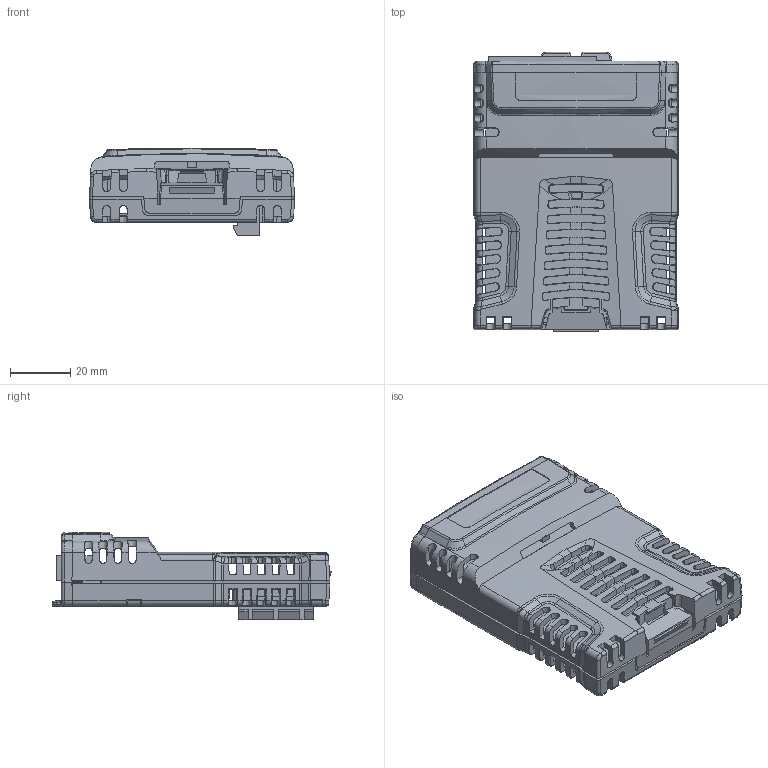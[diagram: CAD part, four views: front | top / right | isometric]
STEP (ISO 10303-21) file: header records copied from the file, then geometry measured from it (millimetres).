
FILE_DESCRIPTION (( 'STEP AP214' ), '1' );
FILE_NAME ('SI-CANopen-Interface (09-920-001) Export20230109.STEP', '2023-01-09T08:54:14', ( 'Windows-Benutzer' ), ( '' ), 'SwSTEP 2.0', 'SolidWorks 2020', '' );
FILE_SCHEMA (( 'AUTOMOTIVE_DESIGN' ));
Length unit declared in the file: millimetre
Products named in the file (1): SI-CANopen-Interface (09-920-001) Export20230109
Bounding box: 67.97 x 92.58 x 29.07 mm (x, y, z)
Volume: 39087.3 mm3; surface area: 49449.7 mm2
Topology: 1 solids, 1 shells, 2538 faces, 7141 edges, 4577 vertices
Faces by surface type: plane 1439, bspline 485, cylinder 322, cone 253, sphere 20, torus 19
Entity records: 126735 total; most frequent: CARTESIAN_POINT 48210, ORIENTED_EDGE 14280, DIRECTION 9830, EDGE_CURVE 7140, VERTEX_POINT 4577, LINE 4078, VECTOR 4078, AXIS2_PLACEMENT_3D 2876
